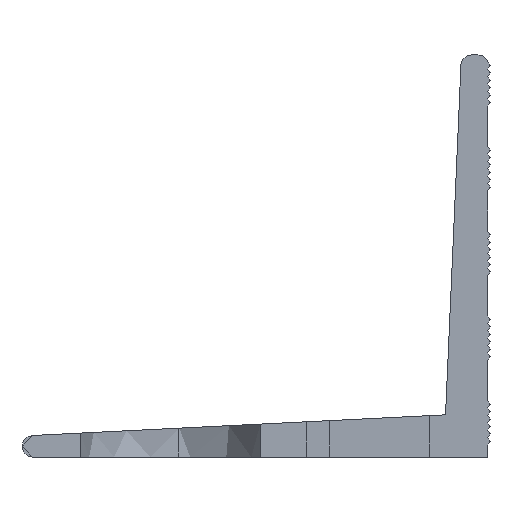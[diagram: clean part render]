
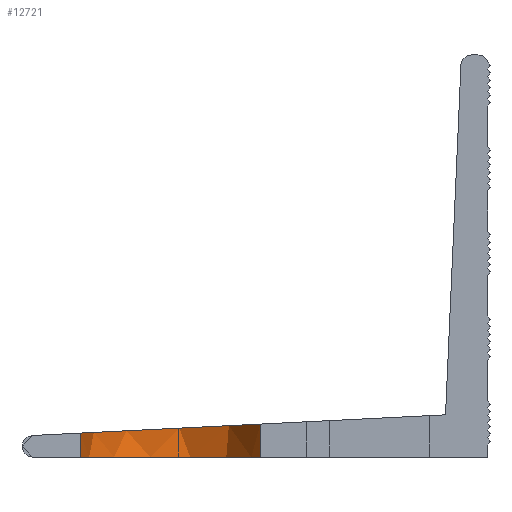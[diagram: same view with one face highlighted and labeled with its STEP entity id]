
A CAD part, left-side view. The second image highlights one B-rep face of the part: STEP entity #12721.
In plain terms, the highlighted cylindrical face has radius 8.5 mm (diameter 17 mm), a partial arc.
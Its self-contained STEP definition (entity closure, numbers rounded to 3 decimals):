
#12721=ADVANCED_FACE('',(#27743),#27745,.F.);
#27743=FACE_BOUND('',#27744,.T.);
#27744=EDGE_LOOP('',(#41014,#41015,#41016,#41017));
#27745=CYLINDRICAL_SURFACE('',#27746,8.5);
#27746=AXIS2_PLACEMENT_3D('',#27747,#27748,#27749);
#27747=CARTESIAN_POINT('',(0.,30.,20.));
#27748=DIRECTION('',(0.,0.,-1.));
#27749=DIRECTION('',(0.,1.,0.));
#41014=ORIENTED_EDGE('',*,*,#44232,.F.);
#41015=ORIENTED_EDGE('',*,*,#48068,.F.);
#41016=ORIENTED_EDGE('',*,*,#44402,.F.);
#41017=ORIENTED_EDGE('',*,*,#45902,.F.);
#44232=EDGE_CURVE('',#51259,#51261,#51262,.T.);
#44402=EDGE_CURVE('',#51597,#51599,#51600,.F.);
#45902=EDGE_CURVE('',#51261,#51597,#54598,.T.);
#48068=EDGE_CURVE('',#51599,#51259,#57431,.F.);
#51259=VERTEX_POINT('',#64218);
#51261=VERTEX_POINT('',#64222);
#51262=(BOUNDED_CURVE()B_SPLINE_CURVE(3,
(#64223,#64224,#64225,#64226),
.UNSPECIFIED.,.F.,.F.)B_SPLINE_CURVE_WITH_KNOTS((4,4),
(0.,1.),
.UNSPECIFIED.)CURVE()GEOMETRIC_REPRESENTATION_ITEM()RATIONAL_B_SPLINE_CURVE((1.,
0.333,0.333,1.))REPRESENTATION_ITEM(''));
#51597=VERTEX_POINT('',#65561);
#51599=VERTEX_POINT('',#65565);
#51600=CIRCLE('',#65566,8.5);
#54598=LINE('',#72230,#72231);
#57431=LINE('',#80062,#80063);
#64218=CARTESIAN_POINT('',(0.,38.5,2.275));
#64222=CARTESIAN_POINT('',(0.,21.5,3.125));
#64223=CARTESIAN_POINT('',(0.,38.5,2.275));
#64224=CARTESIAN_POINT('',(17.,38.5,2.275));
#64225=CARTESIAN_POINT('',(17.,21.5,3.125));
#64226=CARTESIAN_POINT('',(0.,21.5,3.125));
#65561=CARTESIAN_POINT('',(0.,21.5,0.));
#65565=CARTESIAN_POINT('',(0.,38.5,0.));
#65566=AXIS2_PLACEMENT_3D('',#65567,#65568,#65569);
#65567=CARTESIAN_POINT('',(0.,30.,0.));
#65568=DIRECTION('',(0.,0.,-1.));
#65569=DIRECTION('',(0.,1.,0.));
#72230=CARTESIAN_POINT('',(0.,21.5,3.125));
#72231=VECTOR('',#72232,1.);
#72232=DIRECTION('',(0.,0.,-1.));
#80062=CARTESIAN_POINT('',(0.,38.5,2.275));
#80063=VECTOR('',#80064,1.);
#80064=DIRECTION('',(0.,0.,-1.));
